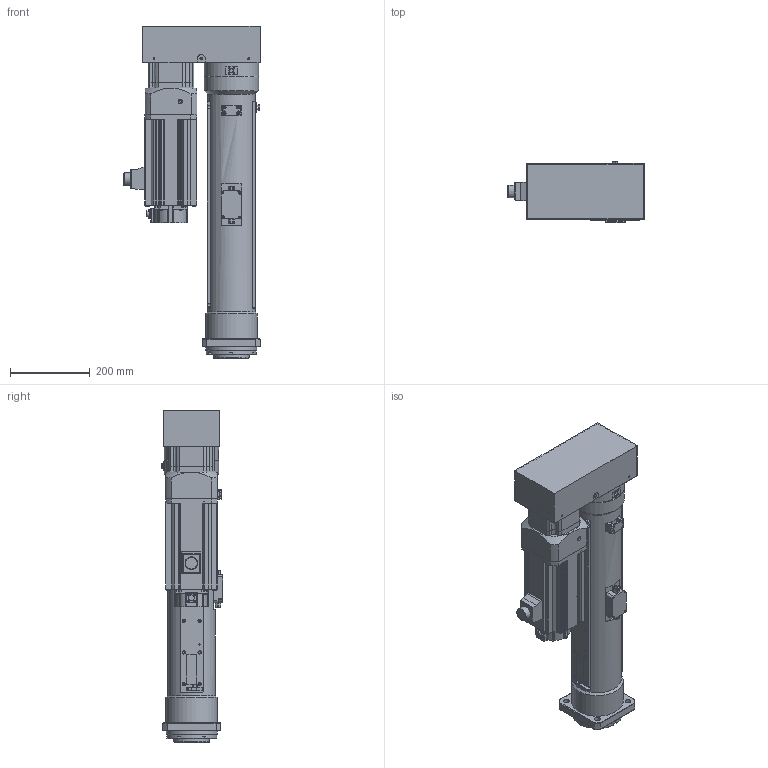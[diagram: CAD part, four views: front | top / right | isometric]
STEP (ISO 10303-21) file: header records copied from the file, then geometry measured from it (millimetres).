
FILE_DESCRIPTION( ('This file contains a STEP AP42 implementation' ,'as created by ZW3D STEP Interface translator.') ,'2;1' );
FILE_NAME( 'OACIS-DC-P060-P070-450-150-A6_V20.01.stp' ,'25 3 8. 956 8', (''), ('ZWCAD Software Co.'), 'Version 1.0', 'ZW3D to STEP translator', '' );
FILE_SCHEMA(('AUTOMOTIVE_DESIGN { 1 0 10303 214 1 1 1 1 }'));
Length unit declared in the file: millimetre
Products named in the file (2): 0; OACIS-DC-P060-P070-450-150-A6_V20.01
Bounding box: 343 x 155 x 834.5 mm (x, y, z)
Volume: 12554137.2 mm3; surface area: 1845084.4 mm2
Topology: 21 solids, 26 shells, 1814 faces, 4659 edges, 3025 vertices
Faces by surface type: plane 770, cylinder 678, cone 198, bspline 133, torus 31, sphere 4
Full cylindrical faces by diameter (mm): 1.567 x4, 2 x1, 2.459 x1, 3.3 x90, 4.2 x4, 4.3 x31, 4.5 x14, 4.917 x12, 5 x1, 5.3 x4, 5.5 x4, 6.5 x4, 6.8 x40, 7 x4, 8 x31, 8.4 x8, 8.5 x4, 9 x14, 9.5 x4, 10 x3, 10.1 x4, 10.2 x16, 10.5 x4, 12 x1, 14 x4, 14.8 x1, 15 x8, 16.5 x2, 17.5 x1, 18 x2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
Entity records: 60809 total; most frequent: CARTESIAN_POINT 14671, DIRECTION 9206, ORIENTED_EDGE 9121, EDGE_CURVE 4568, AXIS2_PLACEMENT_3D 3417, VERTEX_POINT 3022, VECTOR 2372, LINE 2372
